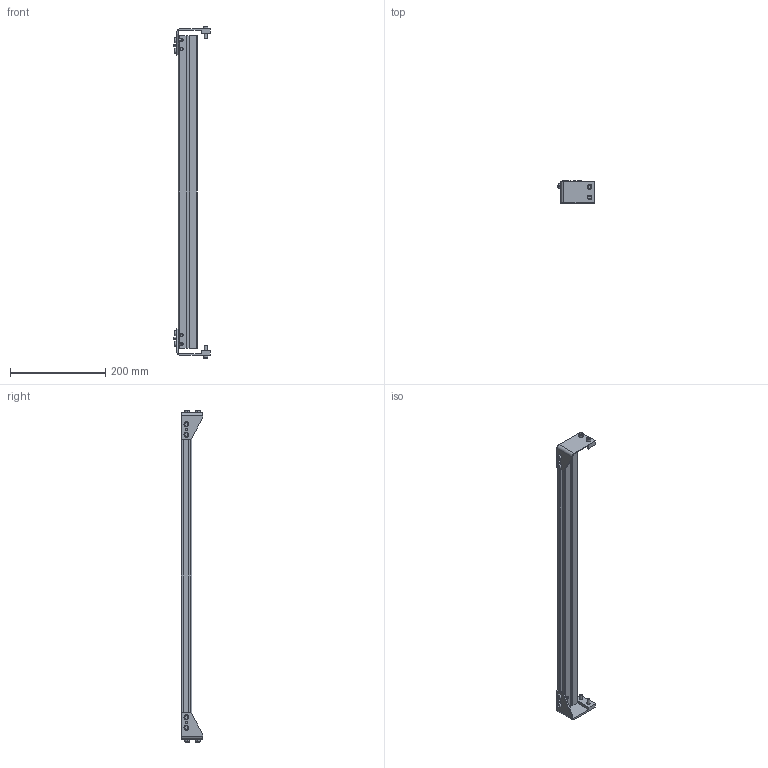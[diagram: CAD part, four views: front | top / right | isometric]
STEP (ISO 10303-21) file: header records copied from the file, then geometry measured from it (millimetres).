
FILE_DESCRIPTION((''),'2;1');
FILE_NAME('3076WWM_2_ASM','2023-03-15T',('jenni.wallner'),(''),'PRO/ENGINEER BY PARAMETRIC TECHNOLOGY CORPORATION, 2012420','PRO/ENGINEER BY PARAMETRIC TECHNOLOGY CORPORATION, 2012420','');
FILE_SCHEMA(('CONFIG_CONTROL_DESIGN'));
Length unit declared in the file: inch
Products named in the file (4): 677721_1; BRACKET_L; BRACKET_R; 3076WWM_2_ASM
Assembly tree (3 placements, depth 2):
  3076WWM_2_ASM
    677721_1
    BRACKET_L
    BRACKET_R
Bounding box: 76.2 x 46.13 x 697.22 mm (x, y, z)
Volume: 312120.6 mm3; surface area: 188324.4 mm2
Topology: 3 solids, 3 shells, 296 faces, 730 edges, 476 vertices
Faces by surface type: plane 188, cylinder 76, cone 32
Entity records: 8834 total; most frequent: DIRECTION 1520, CARTESIAN_POINT 1509, ORIENTED_EDGE 1460, EDGE_CURVE 730, VECTOR 546, LINE 546, AXIS2_PLACEMENT_3D 487, VERTEX_POINT 476
